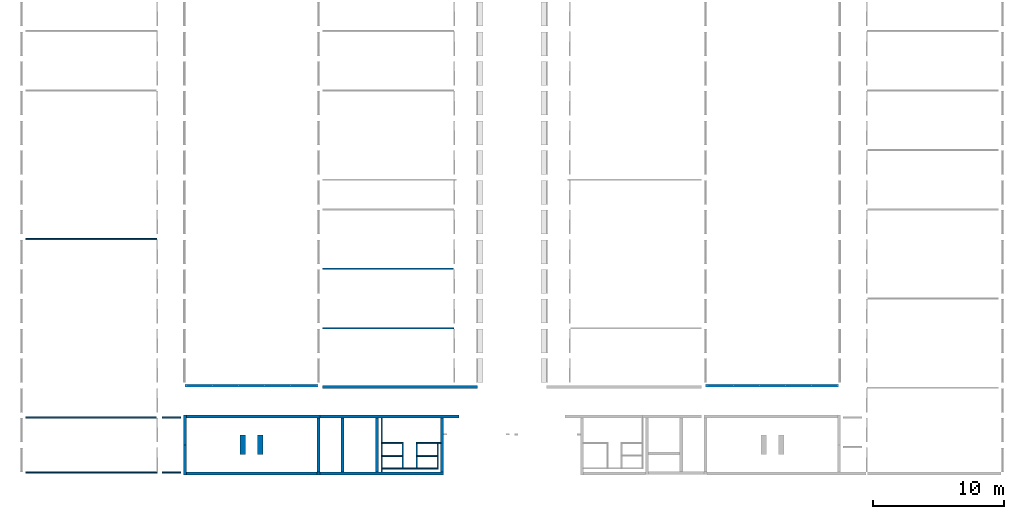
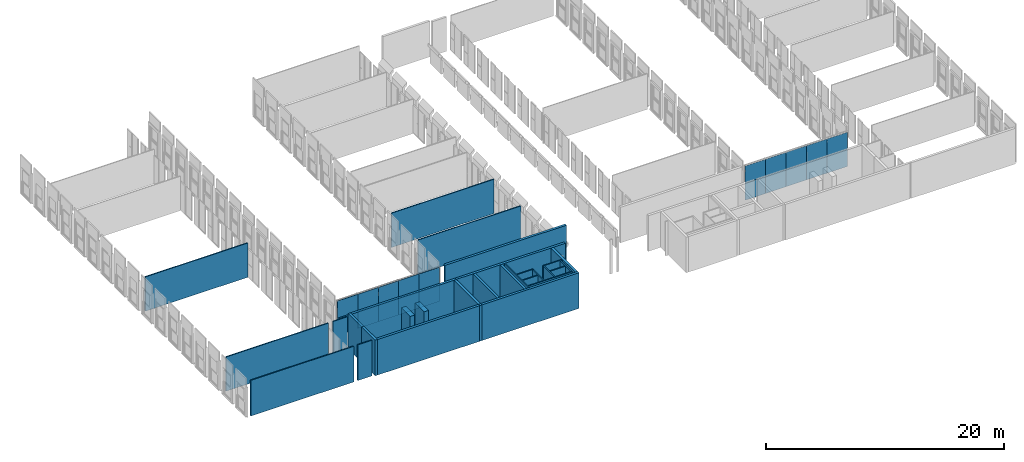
# One storey, part 3 of 13: 30 walls, 20 plates, 2 elements without a shape of their own.
"""IFC2X3 building model written with IfcOpenShell, lengths in millimetres."""

from ifc_helpers import new_model, entity, si_unit, converted_unit, derived_unit, direction, frame, frame_2d, origin, origin_2d_with_axis, place, context, subcontext, project, spatial, rectangle, extrude, source, transform, mapped, material, layer, layer_set, layer_usage, type_object, type_shapes, element, aggregate, save


model = new_model("IFC2X3")

# Units and contexts
model_context = context("Model", 3, precision=0.01, world=origin(), true_north=direction((6.12303176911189e-17, 1.0)))
body_context = subcontext(model_context, "Body", "Model", "MODEL_VIEW")
ifc_project = project(units=[si_unit("LENGTHUNIT", "METRE", prefix="MILLI"), si_unit("AREAUNIT", "SQUARE_METRE"), si_unit("VOLUMEUNIT", "CUBIC_METRE"), converted_unit("PLANEANGLEUNIT", "DEGREE", entity("IfcRatioMeasure", 0.0174532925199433), si_unit("PLANEANGLEUNIT", "RADIAN"), dimensions=[0, 0, 0, 0, 0, 0, 0]), si_unit("MASSUNIT", "GRAM", prefix="KILO"), derived_unit("MASSDENSITYUNIT", [(si_unit("MASSUNIT", "GRAM", prefix="KILO"), 1), (si_unit("LENGTHUNIT", "METRE"), -3)]), derived_unit("MOMENTOFINERTIAUNIT", [(si_unit("LENGTHUNIT", "METRE"), 4)]), si_unit("TIMEUNIT", "SECOND"), si_unit("FREQUENCYUNIT", "HERTZ"), si_unit("THERMODYNAMICTEMPERATUREUNIT", "DEGREE_CELSIUS"), derived_unit("THERMALTRANSMITTANCEUNIT", [(si_unit("MASSUNIT", "GRAM", prefix="KILO"), 1), (si_unit("THERMODYNAMICTEMPERATUREUNIT", "KELVIN"), -1), (si_unit("TIMEUNIT", "SECOND"), -3)]), derived_unit("VOLUMETRICFLOWRATEUNIT", [(si_unit("LENGTHUNIT", "METRE"), 3), (si_unit("TIMEUNIT", "SECOND"), -1)]), si_unit("ELECTRICCURRENTUNIT", "AMPERE"), si_unit("ELECTRICVOLTAGEUNIT", "VOLT"), si_unit("POWERUNIT", "WATT"), si_unit("FORCEUNIT", "NEWTON", prefix="KILO"), si_unit("ILLUMINANCEUNIT", "LUX"), si_unit("LUMINOUSFLUXUNIT", "LUMEN"), si_unit("LUMINOUSINTENSITYUNIT", "CANDELA"), derived_unit("USERDEFINED", [(si_unit("MASSUNIT", "GRAM", prefix="KILO"), -1), (si_unit("LENGTHUNIT", "METRE"), -2), (si_unit("TIMEUNIT", "SECOND"), 3), (si_unit("LUMINOUSFLUXUNIT", "LUMEN"), 1)]), derived_unit("LINEARVELOCITYUNIT", [(si_unit("LENGTHUNIT", "METRE"), 1), (si_unit("TIMEUNIT", "SECOND"), -1)]), si_unit("PRESSUREUNIT", "PASCAL"), derived_unit("USERDEFINED", [(si_unit("LENGTHUNIT", "METRE"), -2), (si_unit("MASSUNIT", "GRAM", prefix="KILO"), 1), (si_unit("TIMEUNIT", "SECOND"), -2)]), derived_unit("LINEARFORCEUNIT", [(si_unit("MASSUNIT", "GRAM", prefix="KILO"), 1), (si_unit("LENGTHUNIT", "METRE"), 1), (si_unit("TIMEUNIT", "SECOND"), -2), (si_unit("LENGTHUNIT", "METRE"), -1)]), derived_unit("PLANARFORCEUNIT", [(si_unit("MASSUNIT", "GRAM", prefix="KILO"), 1), (si_unit("LENGTHUNIT", "METRE"), 1), (si_unit("TIMEUNIT", "SECOND"), -2), (si_unit("LENGTHUNIT", "METRE"), -2)])], contexts=[model_context])

# Site, building, storey
site_placement = place(None, frame((10627.5135316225, 21939.0796949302, 0.0)))
site = spatial("IfcSite", under=ifc_project, at=site_placement, Name="Default", CompositionType="ELEMENT")
building_placement = place(site_placement, origin())
building = spatial("IfcBuilding", under=site, at=building_placement, CompositionType="ELEMENT")
storey_placement = place(building_placement, frame((0.0, 0.0, 7320.0)))
storey = spatial("IfcBuildingStorey", under=building, at=storey_placement, Name="R+2", CompositionType="ELEMENT", Elevation=7320.0)

# Curtain wall, plates
curtain_wall_type = type_object("IfcCurtainWallType", Name="Curtain Wall:Curtain_Wall-Exterior_Glazing", PredefinedType="NOTDEFINED")
curtain_wall_1_placement = place(storey_placement, frame((0.0, 0.0, -7320.0)))
curtain_wall_1 = element("IfcCurtainWall", 1, at=curtain_wall_1_placement, inside=storey, type_object=curtain_wall_type, Name="Curtain Wall:Curtain_Wall-Exterior_Glazing", ObjectType="Curtain Wall:Curtain_Wall-Exterior_Glazing")
ifc_material_1 = material(Name="Glass")
plate_type_1 = type_object("IfcPlateType", Name="System Panel:Glazed", PredefinedType="CURTAIN_PANEL", material=ifc_material_1)
shared_shape_1 = source(origin(), body_context, "Body", "SweptSolid", [
    extrude(rectangle(XDim=25.0, YDim=1999.00000018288, at=origin_2d_with_axis()), frame((0.0, 37.0, 0.0), z_axis=(0.0, 0.0, 1.0), x_axis=(0.0, 1.0, 0.0)), (0.0, 0.0, 1.0), 1760.0),
])
type_shapes(plate_type_1, [shared_shape_1])
plate_1_placement = place(curtain_wall_1_placement, frame((10747.9864682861, -15159.0796949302, 7320.0), z_axis=(0.0, 0.0, 1.0), x_axis=(-1.0, 0.0, 0.0)))
plate_1 = element("IfcPlate", 2, at=plate_1_placement, type_object=plate_type_1, material=ifc_material_1, Name="System Panel:Glazed", ObjectType="System Panel:Glazed", context=body_context, shape_type="MappedRepresentation", body=[
    mapped(shared_shape_1, transform((0.0, 0.0, 0.0), scale=1.0)),
])
plate_2_placement = place(curtain_wall_1_placement, frame((2796.98646846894, -15159.0796949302, 7320.0), z_axis=(0.0, 0.0, 1.0), x_axis=(-1.0, 0.0, 0.0)))
plate_2 = element("IfcPlate", 3, at=plate_2_placement, type_object=plate_type_1, material=ifc_material_1, Name="System Panel:Glazed", ObjectType="System Panel:Glazed", context=body_context, shape_type="MappedRepresentation", body=[
    mapped(shared_shape_1, transform((0.0, 0.0, 0.0), scale=1.0)),
])
plate_3_placement = place(curtain_wall_1_placement, frame((10747.9864682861, -15159.0796949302, 9080.0), z_axis=(0.0, 0.0, 1.0), x_axis=(-1.0, 0.0, 0.0)))
plate_3 = element("IfcPlate", 4, at=plate_3_placement, type_object=plate_type_1, material=ifc_material_1, Name="System Panel:Glazed", ObjectType="System Panel:Glazed", context=body_context, shape_type="MappedRepresentation", body=[
    mapped(shared_shape_1, transform((0.0, 0.0, 0.0), scale=1.0)),
])
plate_4_placement = place(curtain_wall_1_placement, frame((2796.98646846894, -15159.0796949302, 9080.0), z_axis=(0.0, 0.0, 1.0), x_axis=(-1.0, 0.0, 0.0)))
plate_4 = element("IfcPlate", 5, at=plate_4_placement, type_object=plate_type_1, material=ifc_material_1, Name="System Panel:Glazed", ObjectType="System Panel:Glazed", context=body_context, shape_type="MappedRepresentation", body=[
    mapped(shared_shape_1, transform((0.0, 0.0, 0.0), scale=1.0)),
])
plate_type_2 = type_object("IfcPlateType", Name="System Panel:Glazed", PredefinedType="CURTAIN_PANEL", material=ifc_material_1)
shared_shape_2 = source(origin(), body_context, "Body", "SweptSolid", [
    extrude(rectangle(XDim=25.0, YDim=1983.99999987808, at=origin_2d_with_axis()), frame((0.0, 37.0, 0.0), z_axis=(0.0, 0.0, 1.0), x_axis=(0.0, 1.0, 0.0)), (0.0, 0.0, 1.0), 1760.0),
])
type_shapes(plate_type_2, [shared_shape_2])
plate_5_placement = place(curtain_wall_1_placement, frame((8756.48646825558, -15159.0796949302, 7320.0), z_axis=(0.0, 0.0, 1.0), x_axis=(-1.0, 0.0, 0.0)))
plate_5 = element("IfcPlate", 6, at=plate_5_placement, type_object=plate_type_2, material=ifc_material_1, Name="System Panel:Glazed", ObjectType="System Panel:Glazed", context=body_context, shape_type="MappedRepresentation", body=[
    mapped(shared_shape_2, transform((0.0, 0.0, 0.0), scale=1.0)),
])
plate_6_placement = place(curtain_wall_1_placement, frame((6772.4864683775, -15159.0796949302, 7320.0), z_axis=(0.0, 0.0, 1.0), x_axis=(-1.0, 0.0, 0.0)))
plate_6 = element("IfcPlate", 7, at=plate_6_placement, type_object=plate_type_2, material=ifc_material_1, Name="System Panel:Glazed", ObjectType="System Panel:Glazed", context=body_context, shape_type="MappedRepresentation", body=[
    mapped(shared_shape_2, transform((0.0, 0.0, 0.0), scale=1.0)),
])
plate_7_placement = place(curtain_wall_1_placement, frame((4788.48646849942, -15159.0796949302, 7320.0), z_axis=(0.0, 0.0, 1.0), x_axis=(-1.0, 0.0, 0.0)))
plate_7 = element("IfcPlate", 8, at=plate_7_placement, type_object=plate_type_2, material=ifc_material_1, Name="System Panel:Glazed", ObjectType="System Panel:Glazed", context=body_context, shape_type="MappedRepresentation", body=[
    mapped(shared_shape_2, transform((0.0, 0.0, 0.0), scale=1.0)),
])
plate_8_placement = place(curtain_wall_1_placement, frame((8756.48646825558, -15159.0796949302, 9080.0), z_axis=(0.0, 0.0, 1.0), x_axis=(-1.0, 0.0, 0.0)))
plate_8 = element("IfcPlate", 9, at=plate_8_placement, type_object=plate_type_2, material=ifc_material_1, Name="System Panel:Glazed", ObjectType="System Panel:Glazed", context=body_context, shape_type="MappedRepresentation", body=[
    mapped(shared_shape_2, transform((0.0, 0.0, 0.0), scale=1.0)),
])
plate_9_placement = place(curtain_wall_1_placement, frame((6772.4864683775, -15159.0796949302, 9080.0), z_axis=(0.0, 0.0, 1.0), x_axis=(-1.0, 0.0, 0.0)))
plate_9 = element("IfcPlate", 10, at=plate_9_placement, type_object=plate_type_2, material=ifc_material_1, Name="System Panel:Glazed", ObjectType="System Panel:Glazed", context=body_context, shape_type="MappedRepresentation", body=[
    mapped(shared_shape_2, transform((0.0, 0.0, 0.0), scale=1.0)),
])
plate_10_placement = place(curtain_wall_1_placement, frame((4788.48646849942, -15159.0796949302, 9080.0), z_axis=(0.0, 0.0, 1.0), x_axis=(-1.0, 0.0, 0.0)))
plate_10 = element("IfcPlate", 11, at=plate_10_placement, type_object=plate_type_2, material=ifc_material_1, Name="System Panel:Glazed", ObjectType="System Panel:Glazed", context=body_context, shape_type="MappedRepresentation", body=[
    mapped(shared_shape_2, transform((0.0, 0.0, 0.0), scale=1.0)),
])
aggregate(curtain_wall_1, [plate_1, plate_5, plate_6, plate_7, plate_2, plate_3, plate_8, plate_9, plate_10, plate_4])

curtain_wall_2_placement = place(storey_placement, frame((0.0, 0.0, -7320.0)))
curtain_wall_2 = element("IfcCurtainWall", 12, at=curtain_wall_2_placement, inside=storey, type_object=curtain_wall_type, Name="Curtain Wall:Curtain_Wall-Exterior_Glazing", ObjectType="Curtain Wall:Curtain_Wall-Exterior_Glazing")
plate_type_3 = type_object("IfcPlateType", Name="System Panel:Glazed", PredefinedType="CURTAIN_PANEL", material=ifc_material_1)
shared_shape_3 = source(origin(), body_context, "Body", "SweptSolid", [
    extrude(rectangle(XDim=25.0, YDim=1999.00000018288, at=frame_2d((2.66453525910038e-15, 0.0), x_axis=(1.0, 0.0))), frame((0.0, -37.0, 0.0), z_axis=(0.0, 0.0, 1.0), x_axis=(0.0, 1.0, 0.0)), (0.0, 0.0, 1.0), 1760.0),
])
type_shapes(plate_type_3, [shared_shape_3])
plate_11_placement = place(curtain_wall_2_placement, frame((42406.9864684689, -15159.0796949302, 7320.0)))
plate_11 = element("IfcPlate", 13, at=plate_11_placement, type_object=plate_type_3, material=ifc_material_1, Name="System Panel:Glazed", ObjectType="System Panel:Glazed", context=body_context, shape_type="MappedRepresentation", body=[
    mapped(shared_shape_3, transform((0.0, 0.0, 0.0), scale=1.0)),
])
plate_12_placement = place(curtain_wall_2_placement, frame((50357.986468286, -15159.0796949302, 7320.0)))
plate_12 = element("IfcPlate", 14, at=plate_12_placement, type_object=plate_type_3, material=ifc_material_1, Name="System Panel:Glazed", ObjectType="System Panel:Glazed", context=body_context, shape_type="MappedRepresentation", body=[
    mapped(shared_shape_3, transform((0.0, 0.0, 0.0), scale=1.0)),
])
plate_13_placement = place(curtain_wall_2_placement, frame((42406.9864684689, -15159.0796949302, 9080.0)))
plate_13 = element("IfcPlate", 15, at=plate_13_placement, type_object=plate_type_3, material=ifc_material_1, Name="System Panel:Glazed", ObjectType="System Panel:Glazed", context=body_context, shape_type="MappedRepresentation", body=[
    mapped(shared_shape_3, transform((0.0, 0.0, 0.0), scale=1.0)),
])
plate_14_placement = place(curtain_wall_2_placement, frame((50357.986468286, -15159.0796949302, 9080.0)))
plate_14 = element("IfcPlate", 16, at=plate_14_placement, type_object=plate_type_3, material=ifc_material_1, Name="System Panel:Glazed", ObjectType="System Panel:Glazed", context=body_context, shape_type="MappedRepresentation", body=[
    mapped(shared_shape_3, transform((0.0, 0.0, 0.0), scale=1.0)),
])
plate_type_4 = type_object("IfcPlateType", Name="System Panel:Glazed", PredefinedType="CURTAIN_PANEL", material=ifc_material_1)
shared_shape_4 = source(origin(), body_context, "Body", "SweptSolid", [
    extrude(rectangle(XDim=25.0, YDim=1983.99999987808, at=frame_2d((2.66453525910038e-15, 0.0), x_axis=(1.0, 0.0))), frame((0.0, -37.0, 0.0), z_axis=(0.0, 0.0, 1.0), x_axis=(0.0, 1.0, 0.0)), (0.0, 0.0, 1.0), 1760.0),
])
type_shapes(plate_type_4, [shared_shape_4])
plate_15_placement = place(curtain_wall_2_placement, frame((44398.4864684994, -15159.0796949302, 7320.0)))
plate_15 = element("IfcPlate", 17, at=plate_15_placement, type_object=plate_type_4, material=ifc_material_1, Name="System Panel:Glazed", ObjectType="System Panel:Glazed", context=body_context, shape_type="MappedRepresentation", body=[
    mapped(shared_shape_4, transform((0.0, 0.0, 0.0), scale=1.0)),
])
plate_16_placement = place(curtain_wall_2_placement, frame((46382.4864683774, -15159.0796949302, 7320.0)))
plate_16 = element("IfcPlate", 18, at=plate_16_placement, type_object=plate_type_4, material=ifc_material_1, Name="System Panel:Glazed", ObjectType="System Panel:Glazed", context=body_context, shape_type="MappedRepresentation", body=[
    mapped(shared_shape_4, transform((0.0, 0.0, 0.0), scale=1.0)),
])
plate_17_placement = place(curtain_wall_2_placement, frame((48366.4864682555, -15159.0796949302, 7320.0)))
plate_17 = element("IfcPlate", 19, at=plate_17_placement, type_object=plate_type_4, material=ifc_material_1, Name="System Panel:Glazed", ObjectType="System Panel:Glazed", context=body_context, shape_type="MappedRepresentation", body=[
    mapped(shared_shape_4, transform((0.0, 0.0, 0.0), scale=1.0)),
])
plate_18_placement = place(curtain_wall_2_placement, frame((44398.4864684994, -15159.0796949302, 9080.0)))
plate_18 = element("IfcPlate", 20, at=plate_18_placement, type_object=plate_type_4, material=ifc_material_1, Name="System Panel:Glazed", ObjectType="System Panel:Glazed", context=body_context, shape_type="MappedRepresentation", body=[
    mapped(shared_shape_4, transform((0.0, 0.0, 0.0), scale=1.0)),
])
plate_19_placement = place(curtain_wall_2_placement, frame((46382.4864683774, -15159.0796949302, 9080.0)))
plate_19 = element("IfcPlate", 21, at=plate_19_placement, type_object=plate_type_4, material=ifc_material_1, Name="System Panel:Glazed", ObjectType="System Panel:Glazed", context=body_context, shape_type="MappedRepresentation", body=[
    mapped(shared_shape_4, transform((0.0, 0.0, 0.0), scale=1.0)),
])
plate_20_placement = place(curtain_wall_2_placement, frame((48366.4864682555, -15159.0796949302, 9080.0)))
plate_20 = element("IfcPlate", 22, at=plate_20_placement, type_object=plate_type_4, material=ifc_material_1, Name="System Panel:Glazed", ObjectType="System Panel:Glazed", context=body_context, shape_type="MappedRepresentation", body=[
    mapped(shared_shape_4, transform((0.0, 0.0, 0.0), scale=1.0)),
])
aggregate(curtain_wall_2, [plate_11, plate_15, plate_16, plate_17, plate_12, plate_13, plate_18, plate_19, plate_20, plate_14])

# Walls
ifc_material_2 = material(Name="Paint - White Lining")
ifc_layer_1 = layer(ifc_material_2, 3.0)
ifc_material_3 = material(Name="Concrete Masonry Units")
ifc_layer_2 = layer(ifc_material_3, 94.0)
ifc_layer_3 = layer(ifc_material_2, 3.0)
ifc_layer_set_1 = layer_set([ifc_layer_1, ifc_layer_2, ifc_layer_3], Name="Basic Wall:Wall-Int 100")
ifc_layer_usage_1 = layer_usage(ifc_layer_set_1, "AXIS2", "NEGATIVE", 50.0)
wall_type_1 = type_object("IfcWallType", Name="Basic Wall:Wall-Int 100", PredefinedType="STANDARD", material=ifc_layer_set_1)
wall_1_placement = place(storey_placement, frame((-460.513531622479, -4024.07969493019, 0.0), z_axis=(0.0, 0.0, 1.0), x_axis=(-1.0, 0.0, 0.0)))
element("IfcWallStandardCase", 23, at=wall_1_placement, inside=storey, type_object=wall_type_1, material=ifc_layer_usage_1, Name="Basic Wall:Wall-Int 100", ObjectType="Basic Wall:Wall-Int 100", context=body_context, shape_type="SweptSolid", body=[
    extrude(rectangle(XDim=9954.0, YDim=100.0, at=frame_2d((4977.0, 0.0), x_axis=(-1.0, 0.0))), origin(), (0.0, 0.0, 1.0), 3520.0),
])
ifc_layer_usage_2 = layer_usage(ifc_layer_set_1, "AXIS2", "NEGATIVE", 50.0)
wall_2_placement = place(storey_placement, frame((-462.513531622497, -17584.0796949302, 0.0), z_axis=(0.0, 0.0, 1.0), x_axis=(-1.0, 0.0, 0.0)))
element("IfcWallStandardCase", 24, at=wall_2_placement, inside=storey, type_object=wall_type_1, material=ifc_layer_usage_2, Name="Basic Wall:Wall-Int 100", ObjectType="Basic Wall:Wall-Int 100", context=body_context, shape_type="SweptSolid", body=[
    extrude(rectangle(XDim=9952.00000000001, YDim=99.9999999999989, at=frame_2d((4976.0, 0.0), x_axis=(-1.0, 0.0))), origin(), (0.0, 0.0, 1.0), 3520.0),
])
ifc_layer_usage_3 = layer_usage(ifc_layer_set_1, "AXIS2", "NEGATIVE", 50.0)
wall_3_placement = place(storey_placement, frame((22141.4495155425, -10804.0796984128, 0.0), z_axis=(0.0, 0.0, 1.0), x_axis=(-1.0, 0.0, 0.0)))
element("IfcWallStandardCase", 25, at=wall_3_placement, inside=storey, type_object=wall_type_1, material=ifc_layer_usage_3, Name="Basic Wall:Wall-Int 100", ObjectType="Basic Wall:Wall-Int 100", context=body_context, shape_type="SweptSolid", body=[
    extrude(rectangle(XDim=9965.96304716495, YDim=99.9999999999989, at=frame_2d((4982.98152358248, 0.0), x_axis=(-1.0, 0.0))), origin(), (0.0, 0.0, 1.0), 3520.0),
])
ifc_layer_usage_4 = layer_usage(ifc_layer_set_1, "AXIS2", "NEGATIVE", 50.0)
wall_4_placement = place(storey_placement, frame((22127.4864683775, -6284.07969493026, 0.0), z_axis=(0.0, 0.0, 1.0), x_axis=(-1.0, 0.0, 0.0)))
element("IfcWallStandardCase", 26, at=wall_4_placement, inside=storey, type_object=wall_type_1, material=ifc_layer_usage_4, Name="Basic Wall:Wall-Int 100", ObjectType="Basic Wall:Wall-Int 100", context=body_context, shape_type="SweptSolid", body=[
    extrude(rectangle(XDim=9950.0, YDim=99.9999999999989, at=frame_2d((4975.0, 0.0), x_axis=(-1.0, 0.0))), origin(), (0.0, 0.0, 1.0), 3520.0),
])
ifc_layer_usage_5 = layer_usage(ifc_layer_set_1, "AXIS2", "POSITIVE", -50.0)
wall_5_placement = place(storey_placement, frame((-32.513531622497, -17584.0796949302, 0.0)))
element("IfcWallStandardCase", 27, at=wall_5_placement, inside=storey, type_object=wall_type_1, material=ifc_layer_usage_5, Name="Basic Wall:Wall-Int 100", ObjectType="Basic Wall:Wall-Int 100", context=body_context, shape_type="SweptSolid", body=[
    extrude(rectangle(XDim=1402.0, YDim=99.9999999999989, at=frame_2d((701.0, 0.0), x_axis=(-1.0, 0.0))), origin(), (0.0, 0.0, 1.0), 3520.0),
])
ifc_layer_usage_6 = layer_usage(ifc_layer_set_1, "AXIS2", "POSITIVE", -50.0)
wall_6_placement = place(storey_placement, frame((16667.8893211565, -17634.0796949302, 0.0), z_axis=(0.0, 0.0, 1.0), x_axis=(0.0, -1.0, 0.0)))
element("IfcWallStandardCase", 28, at=wall_6_placement, inside=storey, type_object=wall_type_1, material=ifc_layer_usage_6, Name="Basic Wall:Wall-Int 100", ObjectType="Basic Wall:Wall-Int 100", context=body_context, shape_type="SweptSolid", body=[
    extrude(rectangle(XDim=4090.0, YDim=99.9999999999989, at=frame_2d((2045.0, -8.88178419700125e-14), x_axis=(-1.0, 0.0))), origin(), (0.0, 0.0, 1.0), 3660.0),
])
ifc_layer_usage_7 = layer_usage(ifc_layer_set_1, "AXIS2", "POSITIVE", -50.0)
wall_7_placement = place(storey_placement, frame((18317.8893211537, -19544.3072488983, 0.0), z_axis=(0.0, 0.0, 1.0), x_axis=(-1.0, 0.0, 0.0)))
element("IfcWallStandardCase", 29, at=wall_7_placement, inside=storey, type_object=wall_type_1, material=ifc_layer_usage_7, Name="Basic Wall:Wall-Int 100", ObjectType="Basic Wall:Wall-Int 100", context=body_context, shape_type="SweptSolid", body=[
    extrude(rectangle(XDim=1599.99999999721, YDim=100.000000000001, at=frame_2d((799.999999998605, 1.01607611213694e-12), x_axis=(-1.0, 0.0))), origin(), (0.0, 0.0, 1.0), 3660.0),
])
ifc_layer_usage_8 = layer_usage(ifc_layer_set_1, "AXIS2", "POSITIVE", -50.0)
wall_8_placement = place(storey_placement, frame((18217.8893211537, -20509.3072488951, 0.0), z_axis=(0.0, 0.0, 1.0), x_axis=(-1.0, 0.0, 0.0)))
element("IfcWallStandardCase", 30, at=wall_8_placement, inside=storey, type_object=wall_type_1, material=ifc_layer_usage_8, Name="Basic Wall:Wall-Int 100", ObjectType="Basic Wall:Wall-Int 100", context=body_context, shape_type="SweptSolid", body=[
    extrude(rectangle(XDim=1499.99999999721, YDim=100.000000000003, at=frame_2d((749.999999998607, -1.98951966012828e-13), x_axis=(-1.0, 0.0))), origin(), (0.0, 0.0, 1.0), 3660.0),
])
ifc_layer_usage_9 = layer_usage(ifc_layer_set_1, "AXIS2", "NEGATIVE", 50.0)
wall_9_placement = place(storey_placement, frame((20977.8607497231, -21474.3072488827, 0.0), z_axis=(0.0, 0.0, 1.0), x_axis=(-1.0, 0.0, 0.0)))
element("IfcWallStandardCase", 31, at=wall_9_placement, inside=storey, type_object=wall_type_1, material=ifc_layer_usage_9, Name="Basic Wall:Wall-Int 100", ObjectType="Basic Wall:Wall-Int 100", context=body_context, shape_type="SweptSolid", body=[
    extrude(rectangle(XDim=4259.97142856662, YDim=100.000000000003, at=frame_2d((2129.98571428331, -1.49213974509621e-13), x_axis=(-1.0, 0.0))), origin(), (0.0, 0.0, 1.0), 3660.0),
])
ifc_layer_usage_10 = layer_usage(ifc_layer_set_1, "AXIS2", "POSITIVE", -50.0)
wall_10_placement = place(storey_placement, frame((18267.8893211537, -21424.3072488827, 0.0), z_axis=(0.0, 0.0, 1.0), x_axis=(0.0, 1.0, 0.0)))
element("IfcWallStandardCase", 32, at=wall_10_placement, inside=storey, type_object=wall_type_1, material=ifc_layer_usage_10, Name="Basic Wall:Wall-Int 100", ObjectType="Basic Wall:Wall-Int 100", context=body_context, shape_type="SweptSolid", body=[
    extrude(rectangle(XDim=1829.99999998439, YDim=99.9999999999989, at=frame_2d((914.999999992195, -7.8159700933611e-14), x_axis=(-1.0, 0.0))), origin(), (0.0, 0.0, 1.0), 3660.0),
])
ifc_layer_usage_11 = layer_usage(ifc_layer_set_1, "AXIS2", "NEGATIVE", 50.0)
wall_11_placement = place(storey_placement, frame((19277.8607497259, -19544.3072488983, 0.0)))
element("IfcWallStandardCase", 33, at=wall_11_placement, inside=storey, type_object=wall_type_1, material=ifc_layer_usage_11, Name="Basic Wall:Wall-Int 100", ObjectType="Basic Wall:Wall-Int 100", context=body_context, shape_type="SweptSolid", body=[
    extrude(rectangle(XDim=1869.62571865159, YDim=99.9999999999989, at=frame_2d((934.812859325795, -1.27187149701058e-12), x_axis=(-1.0, 0.0))), origin(), (0.0, 0.0, 1.0), 3660.0),
])
ifc_layer_usage_12 = layer_usage(ifc_layer_set_1, "AXIS2", "NEGATIVE", 50.0)
wall_12_placement = place(storey_placement, frame((20927.8607497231, -19594.3072488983, 0.0), z_axis=(0.0, 0.0, 1.0), x_axis=(0.0, -1.0, 0.0)))
element("IfcWallStandardCase", 34, at=wall_12_placement, inside=storey, type_object=wall_type_1, material=ifc_layer_usage_12, Name="Basic Wall:Wall-Int 100", ObjectType="Basic Wall:Wall-Int 100", context=body_context, shape_type="SweptSolid", body=[
    extrude(rectangle(XDim=1829.99999998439, YDim=100.000000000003, at=frame_2d((914.999999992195, -1.59872115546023e-13), x_axis=(-1.0, 0.0))), origin(), (0.0, 0.0, 1.0), 3660.0),
])
ifc_layer_usage_13 = layer_usage(ifc_layer_set_1, "AXIS2", "POSITIVE", -50.0)
wall_13_placement = place(storey_placement, frame((19327.8607497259, -19594.3072488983, 0.0), z_axis=(0.0, 0.0, 1.0), x_axis=(0.0, -1.0, 0.0)))
element("IfcWallStandardCase", 35, at=wall_13_placement, inside=storey, type_object=wall_type_1, material=ifc_layer_usage_13, Name="Basic Wall:Wall-Int 100", ObjectType="Basic Wall:Wall-Int 100", context=body_context, shape_type="SweptSolid", body=[
    extrude(rectangle(XDim=1829.99999998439, YDim=99.9999999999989, at=frame_2d((914.999999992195, -7.8159700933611e-14), x_axis=(-1.0, 0.0))), origin(), (0.0, 0.0, 1.0), 3660.0),
])
ifc_layer_usage_14 = layer_usage(ifc_layer_set_1, "AXIS2", "NEGATIVE", 50.0)
wall_14_placement = place(storey_placement, frame((19377.8607497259, -20509.3072488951, 0.0)))
element("IfcWallStandardCase", 36, at=wall_14_placement, inside=storey, type_object=wall_type_1, material=ifc_layer_usage_14, Name="Basic Wall:Wall-Int 100", ObjectType="Basic Wall:Wall-Int 100", context=body_context, shape_type="SweptSolid", body=[
    extrude(rectangle(XDim=1499.99999999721, YDim=100.000000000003, at=frame_2d((749.999999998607, -7.105427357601e-14), x_axis=(-1.0, 0.0))), origin(), (0.0, 0.0, 1.0), 3660.0),
])
ifc_layer_usage_15 = layer_usage(ifc_layer_set_1, "AXIS2", "NEGATIVE", 50.0)
wall_15_placement = place(storey_placement, frame((-32.5135316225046, -21774.0796949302, 0.0)))
element("IfcWallStandardCase", 37, at=wall_15_placement, inside=storey, type_object=wall_type_1, material=ifc_layer_usage_15, Name="Basic Wall:Wall-Int 100", ObjectType="Basic Wall:Wall-Int 100", context=body_context, shape_type="SweptSolid", body=[
    extrude(rectangle(XDim=1402.0, YDim=100.000000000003, at=frame_2d((701.0, 0.0), x_axis=(-1.0, 0.0))), origin(), (0.0, 0.0, 1.0), 3660.0),
])
ifc_layer_usage_16 = layer_usage(ifc_layer_set_1, "AXIS2", "NEGATIVE", 50.0)
wall_16_placement = place(storey_placement, frame((-10417.1535359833, -21774.3072446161, 0.0)))
element("IfcWallStandardCase", 38, at=wall_16_placement, inside=storey, type_object=wall_type_1, material=ifc_layer_usage_16, Name="Basic Wall:Wall-Int 100", ObjectType="Basic Wall:Wall-Int 100", context=body_context, shape_type="SweptSolid", body=[
    extrude(rectangle(XDim=10000.0, YDim=100.000000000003, at=frame_2d((5000.0, 2.8421709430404e-14), x_axis=(-1.0, 0.0))), origin(), (0.0, 0.0, 1.0), 3660.0),
])
ifc_layer_4 = layer(ifc_material_2, 15.0)
ifc_material_4 = material(Name="Concrete - Precast Concrete - 35 MPa")
ifc_layer_5 = layer(ifc_material_4, 400.0)
ifc_layer_6 = layer(ifc_material_2, 15.0)
ifc_layer_set_2 = layer_set([ifc_layer_4, ifc_layer_5, ifc_layer_6], Name="Basic Wall:Mur430PentureBlanche")
ifc_layer_usage_17 = layer_usage(ifc_layer_set_2, "AXIS2", "NEGATIVE", 215.0)
wall_type_2 = type_object("IfcWallType", Name="Basic Wall:Mur430PentureBlanche", PredefinedType="STANDARD", material=ifc_layer_set_2)
wall_17_placement = place(storey_placement, frame((6095.06645789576, -18920.8001977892, 0.0), z_axis=(0.0, 0.0, 1.0), x_axis=(0.0, -1.0, 0.0)))
element("IfcWallStandardCase", 39, at=wall_17_placement, inside=storey, type_object=wall_type_2, material=ifc_layer_usage_17, Name="Basic Wall:Mur430PentureBlanche", ObjectType="Basic Wall:Mur430PentureBlanche", context=body_context, shape_type="SweptSolid", body=[
    extrude(rectangle(XDim=1490.00177328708, YDim=430.0, at=frame_2d((745.000886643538, 0.0), x_axis=(-1.0, 0.0))), origin(), (0.0, 0.0, 1.0), 3660.0),
])
ifc_layer_usage_18 = layer_usage(ifc_layer_set_2, "AXIS2", "NEGATIVE", 215.0)
wall_18_placement = place(storey_placement, frame((7440.06857035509, -18920.8001977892, 0.0), z_axis=(0.0, 0.0, 1.0), x_axis=(0.0, -1.0, 0.0)))
element("IfcWallStandardCase", 40, at=wall_18_placement, inside=storey, type_object=wall_type_2, material=ifc_layer_usage_18, Name="Basic Wall:Mur430PentureBlanche", ObjectType="Basic Wall:Mur430PentureBlanche", context=body_context, shape_type="SweptSolid", body=[
    extrude(rectangle(XDim=1490.00177328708, YDim=430.0, at=frame_2d((745.000886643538, 0.0), x_axis=(-1.0, 0.0))), origin(), (0.0, 0.0, 1.0), 3660.0),
])
ifc_layer_7 = layer(ifc_material_2, 15.0)
ifc_layer_8 = layer(ifc_material_4, 200.0)
ifc_layer_9 = layer(ifc_material_2, 15.0)
ifc_layer_set_3 = layer_set([ifc_layer_7, ifc_layer_8, ifc_layer_9], Name="Basic Wall:Mur200PentureBlanche 2")
ifc_layer_usage_19 = layer_usage(ifc_layer_set_3, "AXIS2", "NEGATIVE", 115.0)
wall_type_3 = type_object("IfcWallType", Name="Basic Wall:Mur200PentureBlanche 2", PredefinedType="STANDARD", material=ifc_layer_set_3)
wall_19_placement = place(storey_placement, frame((1697.48646837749, -21954.0796949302, 0.0), z_axis=(0.0, 0.0, 1.0), x_axis=(0.0, 1.0, 0.0)))
element("IfcWallStandardCase", 41, at=wall_19_placement, inside=storey, type_object=wall_type_3, material=ifc_layer_usage_19, Name="Basic Wall:Mur200PentureBlanche 2", ObjectType="Basic Wall:Mur200PentureBlanche 2", context=body_context, shape_type="SweptSolid", body=[
    extrude(rectangle(XDim=2275.0, YDim=230.0, at=frame_2d((1137.5, -4.2632564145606e-14), x_axis=(-1.0, 0.0))), origin(), (0.0, 0.0, 1.0), 3660.0),
])
ifc_layer_usage_20 = layer_usage(ifc_layer_set_3, "AXIS2", "POSITIVE", -115.0)
wall_20_placement = place(storey_placement, frame((1695.48646837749, -19679.0796949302, 0.0), z_axis=(0.0, 0.0, 1.0), x_axis=(0.0, 1.0, 0.0)))
element("IfcWallStandardCase", 42, at=wall_20_placement, inside=storey, type_object=wall_type_3, material=ifc_layer_usage_20, Name="Basic Wall:Mur200PentureBlanche 2", ObjectType="Basic Wall:Mur200PentureBlanche 2", context=body_context, shape_type="SweptSolid", body=[
    extrude(rectangle(XDim=2259.99999999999, YDim=230.0, at=frame_2d((1130.0, -5.6843418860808e-14), x_axis=(-1.0, 0.0))), origin(), (0.0, 0.0, 1.0), 3660.0),
])
ifc_layer_usage_21 = layer_usage(ifc_layer_set_3, "AXIS2", "POSITIVE", -115.0)
wall_21_placement = place(storey_placement, frame((1810.4864683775, -17534.0796949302, 0.0)))
element("IfcWallStandardCase", 43, at=wall_21_placement, inside=storey, type_object=wall_type_3, material=ifc_layer_usage_21, Name="Basic Wall:Mur200PentureBlanche 2", ObjectType="Basic Wall:Mur200PentureBlanche 2", context=body_context, shape_type="SweptSolid", body=[
    extrude(rectangle(XDim=10152.0, YDim=230.0, at=frame_2d((5076.0, 3.19744231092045e-13), x_axis=(-1.0, 0.0))), origin(), (0.0, 0.0, 1.0), 3660.0),
])
ifc_layer_usage_22 = layer_usage(ifc_layer_set_3, "AXIS2", "POSITIVE", -115.0)
wall_22_placement = place(storey_placement, frame((11847.4864683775, -17649.0796949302, 0.0), z_axis=(0.0, 0.0, 1.0), x_axis=(0.0, -1.0, 0.0)))
element("IfcWallStandardCase", 44, at=wall_22_placement, inside=storey, type_object=wall_type_3, material=ifc_layer_usage_22, Name="Basic Wall:Mur200PentureBlanche 2", ObjectType="Basic Wall:Mur200PentureBlanche 2", context=body_context, shape_type="SweptSolid", body=[
    extrude(rectangle(XDim=4074.99999999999, YDim=230.0, at=frame_2d((2037.5, -1.49213974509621e-13), x_axis=(-1.0, 0.0))), origin(), (0.0, 0.0, 1.0), 3660.0),
])
ifc_layer_usage_23 = layer_usage(ifc_layer_set_3, "AXIS2", "POSITIVE", -115.0)
wall_23_placement = place(storey_placement, frame((11847.4864683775, -17649.0796949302, 0.0), z_axis=(0.0, 0.0, 1.0), x_axis=(0.0, -1.0, 0.0)))
element("IfcWallStandardCase", 45, at=wall_23_placement, inside=storey, type_object=wall_type_3, material=ifc_layer_usage_23, Name="Basic Wall:Mur200PentureBlanche 2", ObjectType="Basic Wall:Mur200PentureBlanche 2", context=body_context, shape_type="SweptSolid", body=[
    extrude(rectangle(XDim=4304.99999999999, YDim=230.0, at=frame_2d((2152.5, 1.56319401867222e-13), x_axis=(-1.0, 0.0))), origin(), (0.0, 0.0, 1.0), 3660.0),
])
ifc_layer_usage_24 = layer_usage(ifc_layer_set_3, "AXIS2", "NEGATIVE", 115.0)
wall_24_placement = place(storey_placement, frame((11962.4864683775, -17519.0796949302, 0.0)))
element("IfcWallStandardCase", 46, at=wall_24_placement, inside=storey, type_object=wall_type_3, material=ifc_layer_usage_24, Name="Basic Wall:Mur200PentureBlanche 2", ObjectType="Basic Wall:Mur200PentureBlanche 2", context=body_context, shape_type="SweptSolid", body=[
    extrude(rectangle(XDim=10600.0, YDim=230.0, at=frame_2d((5300.0, -5.6843418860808e-14), x_axis=(-1.0, 0.0))), origin(), (0.0, 0.0, 1.0), 3660.0),
])
ifc_layer_usage_25 = layer_usage(ifc_layer_set_3, "AXIS2", "NEGATIVE", 115.0)
wall_25_placement = place(storey_placement, frame((13692.4864683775, -17634.0796949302, 0.0), z_axis=(0.0, 0.0, 1.0), x_axis=(0.0, -1.0, 0.0)))
element("IfcWallStandardCase", 47, at=wall_25_placement, inside=storey, type_object=wall_type_3, material=ifc_layer_usage_25, Name="Basic Wall:Mur200PentureBlanche 2", ObjectType="Basic Wall:Mur200PentureBlanche 2", context=body_context, shape_type="SweptSolid", body=[
    extrude(rectangle(XDim=4089.99999999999, YDim=230.0, at=frame_2d((2045.0, -2.41584530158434e-13), x_axis=(-1.0, 0.0))), origin(), (0.0, 0.0, 1.0), 3660.0),
])
ifc_layer_usage_26 = layer_usage(ifc_layer_set_3, "AXIS2", "POSITIVE", -115.0)
wall_26_placement = place(storey_placement, frame((11962.4864683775, -21839.0796949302, 0.0)))
element("IfcWallStandardCase", 48, at=wall_26_placement, inside=storey, type_object=wall_type_3, material=ifc_layer_usage_26, Name="Basic Wall:Mur200PentureBlanche 2", ObjectType="Basic Wall:Mur200PentureBlanche 2", context=body_context, shape_type="SweptSolid", body=[
    extrude(rectangle(XDim=9415.0, YDim=230.0, at=frame_2d((4707.5, 7.105427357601e-15), x_axis=(-1.0, 0.0))), origin(), (0.0, 0.0, 1.0), 3660.0),
])
ifc_layer_usage_27 = layer_usage(ifc_layer_set_3, "AXIS2", "NEGATIVE", 115.0)
wall_27_placement = place(storey_placement, frame((21262.4864683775, -17634.0796949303, 0.0), z_axis=(0.0, 0.0, 1.0), x_axis=(0.0, -1.0, 0.0)))
element("IfcWallStandardCase", 49, at=wall_27_placement, inside=storey, type_object=wall_type_3, material=ifc_layer_usage_27, Name="Basic Wall:Mur200PentureBlanche 2", ObjectType="Basic Wall:Mur200PentureBlanche 2", context=body_context, shape_type="SweptSolid", body=[
    extrude(rectangle(XDim=4089.99999999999, YDim=230.0, at=frame_2d((2045.0, -2.27373675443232e-13), x_axis=(-1.0, 0.0))), origin(), (0.0, 0.0, 1.0), 3660.0),
])
ifc_layer_usage_28 = layer_usage(ifc_layer_set_3, "AXIS2", "POSITIVE", -115.0)
wall_28_placement = place(storey_placement, frame((16317.8893211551, -17634.0796949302, 0.0), z_axis=(0.0, 0.0, 1.0), x_axis=(0.0, -1.0, 0.0)))
element("IfcWallStandardCase", 50, at=wall_28_placement, inside=storey, type_object=wall_type_3, material=ifc_layer_usage_28, Name="Basic Wall:Mur200PentureBlanche 2", ObjectType="Basic Wall:Mur200PentureBlanche 2", context=body_context, shape_type="SweptSolid", body=[
    extrude(rectangle(XDim=4089.99999999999, YDim=230.0, at=frame_2d((2045.0, -1.70530256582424e-13), x_axis=(-1.0, 0.0))), origin(), (0.0, 0.0, 1.0), 3660.0),
])
ifc_layer_usage_29 = layer_usage(ifc_layer_set_3, "AXIS2", "POSITIVE", -115.0)
wall_29_placement = place(storey_placement, frame((12177.4864683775, -15274.0796949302, 0.0)))
element("IfcWallStandardCase", 51, at=wall_29_placement, inside=storey, type_object=wall_type_3, material=ifc_layer_usage_29, Name="Basic Wall:Mur200PentureBlanche 2", ObjectType="Basic Wall:Mur200PentureBlanche 2", context=body_context, shape_type="SweptSolid", body=[
    extrude(rectangle(XDim=11782.0, YDim=230.0, at=frame_2d((5891.0, 0.0), x_axis=(-1.0, 0.0))), origin(), (0.0, 0.0, 1.0), 3660.0),
])
ifc_layer_usage_30 = layer_usage(ifc_layer_set_3, "AXIS2", "NEGATIVE", 115.0)
wall_30_placement = place(storey_placement, frame((1812.48646837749, -21839.0796949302, 0.0)))
element("IfcWallStandardCase", 52, at=wall_30_placement, inside=storey, type_object=wall_type_3, material=ifc_layer_usage_30, Name="Basic Wall:Mur200PentureBlanche 2", ObjectType="Basic Wall:Mur200PentureBlanche 2", context=body_context, shape_type="SweptSolid", body=[
    extrude(rectangle(XDim=9920.0, YDim=230.0, at=frame_2d((4960.0, -1.77635683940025e-13), x_axis=(-1.0, 0.0))), origin(), (0.0, 0.0, 1.0), 3660.0),
])

save(model, "model.ifc")
